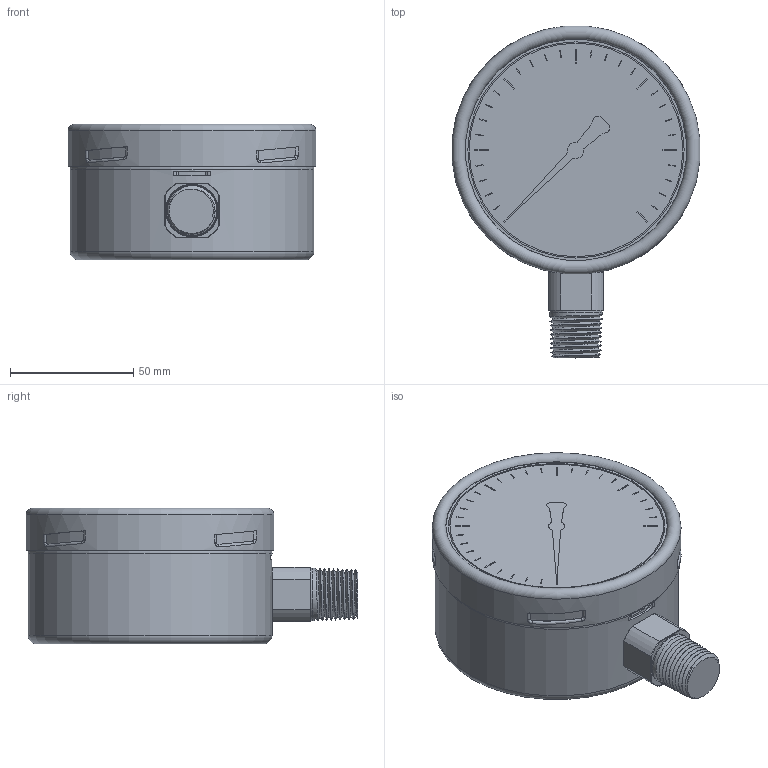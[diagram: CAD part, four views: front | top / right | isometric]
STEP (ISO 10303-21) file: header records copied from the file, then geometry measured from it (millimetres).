
FILE_DESCRIPTION(/* description */ (''),/* implementation_level */ '2;1');
FILE_NAME(/* name */ 'P:\Drawings, Sketches\Stephen Sketches\PCS Gauges\Assemblies\.stp files\40282 - PC40 BOTT.stp',/* time_stamp */ '2023-08-15T15:03:43-05:00',/* author */ ('stephen'),/* organization */ (''),/* preprocessor_version */ 'ST-DEVELOPER v18.1',/* originating_system */ 'Autodesk Inventor 2022',/* authorisation */ '');
FILE_SCHEMA (('AUTOMOTIVE_DESIGN { 1 0 10303 214 3 1 1 }'));
Length unit declared in the file: millimetre
Products named in the file (4): PC40 BOTT; KPCh 100-3 rm G1-4B; 100mm dial; .5 ftg Bott
Assembly tree (3 placements, depth 2):
  PC40 BOTT
    KPCh 100-3 rm G1-4B
    100mm dial
    .5 ftg Bott
Bounding box: 100.42 x 134.41 x 55.02 mm (x, y, z)
Volume: 423743.1 mm3; surface area: 50928.3 mm2
Topology: 3 solids, 3 shells, 287 faces, 678 edges, 439 vertices
Faces by surface type: plane 195, cylinder 44, bspline 26, torus 12, cone 10
Full cylindrical faces by diameter (mm): 0.254 x2, 21.336 x1, 86.547 x1, 87.6 x1, 98.8 x1, 99.2 x1, 100.8 x1
Entity records: 16113 total; most frequent: CARTESIAN_POINT 9238, ORIENTED_EDGE 1356, DIRECTION 1215, EDGE_CURVE 678, LINE 495, VECTOR 495, VERTEX_POINT 439, AXIS2_PLACEMENT_3D 360
